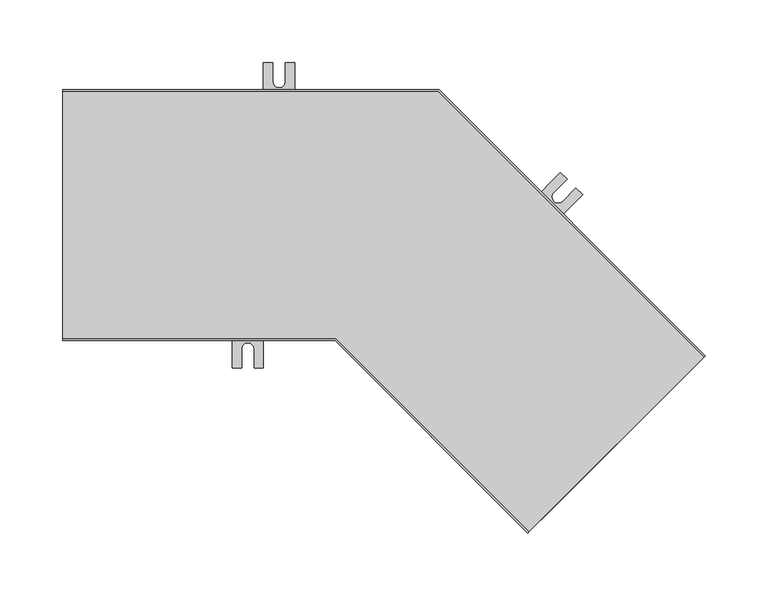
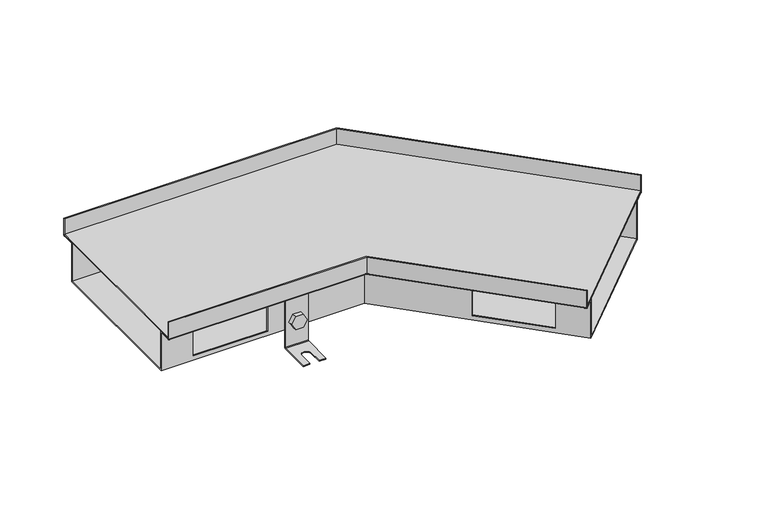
"""IFC4 building model written with IfcOpenShell, lengths in millimetres: proxy geometry, TECHNO_Угловой элемент_KVU : 200_065_135°."""

from ifc_helpers import new_model, si_unit, point, frame, frame_2d, origin, place, context, project, spatial, polyline, circle_curve, ellipse_curve, trimmed, segment, composite_curve, outline, extrude, source, transform, mapped, element, save
from ifc_brep_helpers import plane_surface, cylinder_surface, revolved_surface, advanced_brep


def mechanical_equipment_ebc65f48(model_context):
    return source(origin(), model_context, "Body", "SolidModel", [
        extrude(outline(composite_curve([segment(trimmed(circle_curve(frame_2d((0.0, -7.4999999)), 7.5), [point((0.0, -15.0))], [point((0.0, 0.0))], False, "CARTESIAN"), True, "CONTINUOUS"), segment(trimmed(circle_curve(frame_2d((0.0, -7.4999999)), 7.5), [point((0.0, 0.0))], [point((0.0, -15.0))], False, "CARTESIAN"), True, "CONTINUOUS")], self_intersect=False)), frame((370.6399674, -55.6342025, -55.5), z_axis=(0.7071067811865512, 0.7071067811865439, 0.0), x_axis=(0.0, 0.0, 1.0)), (0.0, 0.0, 1.0), 1.5),
        extrude(outline(polyline([(0.0, 0.0), (8.6602541, 0.0), (12.9903811, -7.5), (8.6602541, -15.0), (0.0, -15.0), (-4.330127, -7.5), (0.0, 0.0)])), frame((354.7581695, -48.66195, -55.5), z_axis=(0.7071067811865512, 0.7071067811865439, 0.0), x_axis=(0.35355339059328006, -0.3535533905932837, -0.866025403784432)), (0.0, 0.0, 1.0), 5.1),
        advanced_brep(
        [(373.3269732, -60.0182646, -20.5), (373.3269732, -60.0182646, -83.5), (372.7612878, -60.58395, -84.3), (349.426764, -83.9184738, -84.3), (349.426764, -83.9184738, -85.5), (372.7612878, -60.58395, -85.5), (374.1755013, -59.1697364, -83.5), (374.1755013, -59.1697364, -20.5), (355.6493037, -42.3405951, -20.5), (356.4978318, -41.4920669, -20.5), (356.4978318, -41.4920669, -83.5), (355.0836183, -42.9062805, -85.5), (331.7490945, -66.2408043, -85.5), (331.7490945, -66.2408043, -84.3), (355.0836183, -42.9062805, -84.3), (355.6493037, -42.3405951, -83.5), (337.0523953, -71.5441051, -84.3), (347.6589971, -60.9375034, -84.3), (354.7300649, -68.0085712, -84.3), (344.1234631, -78.6151729, -84.3), (344.1234631, -78.6151729, -85.5), (337.0523953, -71.5441051, -85.5), (354.7300649, -68.0085712, -85.5), (347.6589971, -60.9375034, -85.5)],
        [
            (0, 1),
            (1, 2, circle_curve(frame((372.7612878, -60.58395, -83.5), z_axis=(-0.7071067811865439, 0.7071067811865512, 0.0), x_axis=(-0.7071067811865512, -0.7071067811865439, 0.0)), 0.8)),
            (2, 3),
            (3, 4),
            (4, 5),
            (5, 6, circle_curve(frame((372.7612878, -60.58395, -83.5), z_axis=(0.7071067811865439, -0.7071067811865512, 0.0), x_axis=(-0.7071067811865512, -0.7071067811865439, 0.0)), 2.0)),
            (6, 7),
            (7, 0),
            (8, 9),
            (9, 10),
            (10, 11, circle_curve(frame((355.0836183, -42.9062805, -83.5), z_axis=(-0.7071067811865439, 0.7071067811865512, 0.0), x_axis=(-0.7071067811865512, -0.7071067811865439, 0.0)), 2.0)),
            (11, 12),
            (12, 13),
            (13, 14),
            (14, 15, circle_curve(frame((355.0836183, -42.9062805, -83.5), z_axis=(0.7071067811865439, -0.7071067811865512, 0.0), x_axis=(-0.7071067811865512, -0.7071067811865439, 0.0)), 0.8)),
            (15, 8),
            (0, 8),
            (15, 1),
            (14, 2),
            (13, 16),
            (16, 17),
            (17, 18, circle_curve(frame((351.194531, -64.4730373, -84.3), z_axis=(0.0, 0.0, -1.0), x_axis=(0.7071067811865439, -0.7071067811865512, 0.0)), 5.0)),
            (18, 19),
            (19, 3),
            (19, 20),
            (20, 4),
            (12, 21),
            (21, 16),
            (20, 22),
            (22, 23, circle_curve(frame((351.194531, -64.4730373, -85.5), z_axis=(0.0, 0.0, 1.0), x_axis=(0.7071067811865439, -0.7071067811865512, 0.0)), 5.0)),
            (23, 21),
            (11, 5),
            (10, 6),
            (9, 7),
            (23, 17),
            (18, 22),
        ],
        [
            plane_surface(frame((373.3269732, -60.0182646, -20.5), z_axis=(0.7071067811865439, -0.7071067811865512, 0.0), x_axis=(0.0, 0.0, -1.0))),
            plane_surface(frame((355.6493037, -42.3405951, -20.5), z_axis=(-0.7071067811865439, 0.7071067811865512, 0.0), x_axis=(0.0, 0.0, 1.0))),
            plane_surface(frame((373.3269732, -60.0182646, -20.5), z_axis=(-0.7071067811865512, -0.7071067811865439, 0.0), x_axis=(-0.7071067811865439, 0.7071067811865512, 0.0))),
            revolved_surface(polyline([(354.51793287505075, -43.47196592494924, -83.5), (372.19560237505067, -61.149635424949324, -83.5)]), (355.0836183, -42.9062805, -83.5), (-0.7071067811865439, 0.7071067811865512, 0.0)),
            plane_surface(frame((372.7612878, -60.58395, -84.3), z_axis=(0.0, 0.0, 1.0), x_axis=(-0.7071067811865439, 0.7071067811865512, 0.0))),
            plane_surface(frame((349.426764, -83.9184738, -84.3), z_axis=(-0.7071067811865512, -0.7071067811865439, 0.0), x_axis=(-0.7071067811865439, 0.7071067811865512, 0.0))),
            plane_surface(frame((349.426764, -83.9184738, -85.5), z_axis=(0.0, 0.0, -1.0), x_axis=(-0.7071067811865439, 0.7071067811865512, 0.0))),
            cylinder_surface(frame((355.0836183, -42.9062805, -83.5), z_axis=(0.7071067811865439, -0.7071067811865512, 0.0), x_axis=(-0.7071067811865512, -0.7071067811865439, 0.0)), 2.0),
            plane_surface(frame((374.1755013, -59.1697364, -83.5), z_axis=(0.7071067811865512, 0.7071067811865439, 0.0), x_axis=(-0.7071067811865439, 0.7071067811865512, 0.0))),
            plane_surface(frame((374.1755013, -59.1697364, -20.5), z_axis=(0.0, 0.0, 1.0), x_axis=(-0.7071067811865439, 0.7071067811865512, 0.0))),
            plane_surface(frame((347.6589971, -60.9375034, -84.3), z_axis=(0.7071067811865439, -0.7071067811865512, 0.0), x_axis=(0.0, 0.0, -1.0))),
            plane_surface(frame((344.1234631, -78.6151729, -84.3), z_axis=(-0.707106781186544, 0.7071067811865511, 0.0), x_axis=(0.0, 0.0, -1.0))),
            revolved_surface(polyline([(354.7300649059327, -68.00857120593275, -84.3), (354.7300649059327, -68.00857120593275, -85.5)]), (351.194531, -64.4730373, -85.5), (0.0, 0.0, 1.0)),
        ],
        [
            (0, [[1, 2, 3, 4, 5, 6, 7, 8]]),
            (1, [[9, 10, 11, 12, 13, 14, 15, 16]]),
            (2, [[-1, 17, -16, 18]]),
            (3, [[-2, -18, -15, 19]]),
            (4, [[-3, -19, -14, 20, 21, 22, 23, 24]]),
            (5, [[-4, -24, 25, 26]]),
            (5, [[-13, 27, 28, -20]]),
            (6, [[-5, -26, 29, 30, 31, -27, -12, 32]]),
            (7, [[-6, -32, -11, 33]]),
            (8, [[-7, -33, -10, 34]]),
            (9, [[-8, -34, -9, -17]]),
            (10, [[35, -21, -28, -31]]),
            (11, [[36, -29, -25, -23]]),
            (12, [[-35, -30, -36, -22]]),
        ],
    ),
        extrude(outline(composite_curve([segment(trimmed(circle_curve(frame_2d((0.0, -7.5)), 7.5), [point((0.0, -15.0))], [point((0.0, 0.0))], False, "CARTESIAN"), True, "CONTINUOUS"), segment(trimmed(circle_curve(frame_2d((0.0, -7.5)), 7.5), [point((0.0, 0.0))], [point((0.0, -15.0))], False, "CARTESIAN"), True, "CONTINUOUS")], self_intersect=False)), frame((374.3876334, 4.6820059, -55.5), z_axis=(0.7071067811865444, 0.7071067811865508, 0.0), x_axis=(0.0, 0.0, -1.0)), (0.0, 0.0, 1.0), 1.5),
        extrude(outline(polyline([(0.0, 0.0), (4.330127, -7.5), (0.0, -15.0), (-8.660254, -15.0), (-12.990381, -7.5), (-8.6602541, 0.0), (0.0, 0.0)])), frame((387.7238469, -4.835831, -55.5), z_axis=(0.7071067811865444, 0.7071067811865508, 0.0), x_axis=(0.3535533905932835, -0.3535533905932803, 0.866025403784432)), (0.0, 0.0, 1.0), 5.1),
        advanced_brep(
        [(372.7612878, 10.1267281, -20.5), (372.7612878, 10.1267281, -83.5), (373.3269732, 10.6924135, -84.3), (396.661497, 34.0269373, -84.3), (396.661497, 34.0269373, -85.5), (373.3269732, 10.6924135, -85.5), (371.9127596, 9.2782, -83.5), (371.9127596, 9.2782, -20.5), (390.4389573, -7.5509414, -20.5), (389.5904292, -8.3994696, -20.5), (389.5904292, -8.3994696, -83.5), (391.0046427, -6.985256, -85.5), (414.3391665, 16.3492678, -85.5), (414.3391665, 16.3492678, -84.3), (391.0046427, -6.985256, -84.3), (390.4389573, -7.5509414, -83.5), (409.0358657, 21.6525686, -84.3), (398.4292639, 11.0459669, -84.3), (391.3581961, 18.1170347, -84.3), (401.9647978, 28.7236365, -84.3), (401.9647978, 28.7236365, -85.5), (409.0358657, 21.6525686, -85.5), (391.3581961, 18.1170347, -85.5), (398.4292639, 11.0459669, -85.5)],
        [
            (0, 1),
            (1, 2, circle_curve(frame((373.3269732, 10.6924135, -83.5), z_axis=(0.7071067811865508, -0.7071067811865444, 0.0), x_axis=(0.7071067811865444, 0.7071067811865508, 0.0)), 0.8)),
            (2, 3),
            (3, 4),
            (4, 5),
            (5, 6, circle_curve(frame((373.3269732, 10.6924135, -83.5), z_axis=(-0.7071067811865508, 0.7071067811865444, 0.0), x_axis=(0.7071067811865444, 0.7071067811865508, 0.0)), 2.0)),
            (6, 7),
            (7, 0),
            (8, 9),
            (9, 10),
            (10, 11, circle_curve(frame((391.0046427, -6.985256, -83.5), z_axis=(0.7071067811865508, -0.7071067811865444, 0.0), x_axis=(0.7071067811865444, 0.7071067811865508, 0.0)), 2.0)),
            (11, 12),
            (12, 13),
            (13, 14),
            (14, 15, circle_curve(frame((391.0046427, -6.985256, -83.5), z_axis=(-0.7071067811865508, 0.7071067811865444, 0.0), x_axis=(0.7071067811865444, 0.7071067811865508, 0.0)), 0.8)),
            (15, 8),
            (0, 8),
            (15, 1),
            (14, 2),
            (13, 16),
            (16, 17),
            (17, 18, circle_curve(frame((394.89373, 14.5815008, -84.3), z_axis=(0.0, 0.0, -1.0), x_axis=(-0.7071067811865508, 0.7071067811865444, 0.0)), 5.0)),
            (18, 19),
            (19, 3),
            (19, 20),
            (20, 4),
            (12, 21),
            (21, 16),
            (20, 22),
            (22, 23, circle_curve(frame((394.89373, 14.5815008, -85.5), z_axis=(0.0, 0.0, 1.0), x_axis=(-0.7071067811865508, 0.7071067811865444, 0.0)), 5.0)),
            (23, 21),
            (11, 5),
            (10, 6),
            (9, 7),
            (23, 17),
            (18, 22),
        ],
        [
            plane_surface(frame((372.7612878, 10.1267281, -20.5), z_axis=(-0.7071067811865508, 0.7071067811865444, 0.0), x_axis=(0.0, 0.0, -1.0))),
            plane_surface(frame((390.4389573, -7.5509414, -20.5), z_axis=(0.7071067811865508, -0.7071067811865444, 0.0), x_axis=(0.0, 0.0, 1.0))),
            plane_surface(frame((372.7612878, 10.1267281, -20.5), z_axis=(0.7071067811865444, 0.7071067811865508, 0.0), x_axis=(0.7071067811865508, -0.7071067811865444, 0.0))),
            revolved_surface(polyline([(391.5703281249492, -6.419570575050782, -83.5), (373.8926586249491, 11.25809892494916, -83.5)]), (391.0046427, -6.985256, -83.5), (0.7071067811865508, -0.7071067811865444, 0.0)),
            plane_surface(frame((373.3269732, 10.6924135, -84.3), z_axis=(0.0, 0.0, 1.0000000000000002), x_axis=(0.7071067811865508, -0.7071067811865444, 0.0))),
            plane_surface(frame((396.661497, 34.0269373, -84.3), z_axis=(0.7071067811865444, 0.7071067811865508, 0.0), x_axis=(0.7071067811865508, -0.7071067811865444, 0.0))),
            plane_surface(frame((396.661497, 34.0269373, -85.5), z_axis=(0.0, 0.0, -1.0000000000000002), x_axis=(0.7071067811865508, -0.7071067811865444, 0.0))),
            cylinder_surface(frame((391.0046427, -6.985256, -83.5), z_axis=(-0.7071067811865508, 0.7071067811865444, 0.0), x_axis=(0.7071067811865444, 0.7071067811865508, 0.0)), 2.0),
            plane_surface(frame((371.9127596, 9.2782, -83.5), z_axis=(-0.7071067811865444, -0.7071067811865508, 0.0), x_axis=(0.7071067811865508, -0.7071067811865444, 0.0))),
            plane_surface(frame((371.9127596, 9.2782, -20.5), z_axis=(0.0, 0.0, 1.0000000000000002), x_axis=(0.7071067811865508, -0.7071067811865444, 0.0))),
            plane_surface(frame((398.4292639, 11.0459669, -84.3), z_axis=(-0.7071067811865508, 0.7071067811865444, 0.0), x_axis=(0.0, 0.0, -1.0))),
            plane_surface(frame((401.9647978, 28.7236365, -84.3), z_axis=(0.7071067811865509, -0.7071067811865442, 0.0), x_axis=(0.0, 0.0, -1.0))),
            revolved_surface(polyline([(391.35819609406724, 18.117034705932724, -84.3), (391.35819609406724, 18.117034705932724, -85.5)]), (394.89373, 14.5815008, -85.5), (0.0, 0.0, 1.0)),
        ],
        [
            (0, [[1, 2, 3, 4, 5, 6, 7, 8]]),
            (1, [[9, 10, 11, 12, 13, 14, 15, 16]]),
            (2, [[-1, 17, -16, 18]]),
            (3, [[-2, -18, -15, 19]]),
            (4, [[-3, -19, -14, 20, 21, 22, 23, 24]]),
            (5, [[-4, -24, 25, 26]]),
            (5, [[-13, 27, 28, -20]]),
            (6, [[-5, -26, 29, 30, 31, -27, -12, 32]]),
            (7, [[-6, -32, -11, 33]]),
            (8, [[-7, -33, -10, 34]]),
            (9, [[-8, -34, -9, -17]]),
            (10, [[35, -21, -28, -31]]),
            (11, [[36, -29, -25, -23]]),
            (12, [[-35, -30, -36, -22]]),
        ],
    ),
        extrude(outline(composite_curve([segment(trimmed(circle_curve(frame_2d((-55.5, 172.5)), 7.5), [point((-55.5, 165.0))], [point((-55.5, 180.0))], False, "CARTESIAN"), True, "CONTINUOUS"), segment(trimmed(circle_curve(frame_2d((-55.5, 172.5)), 7.5), [point((-55.5, 180.0))], [point((-55.5, 165.0))], False, "CARTESIAN"), True, "CONTINUOUS")], self_intersect=False)), frame((0.0, 85.2, 0.0), z_axis=(0.0, 1.0, 0.0), x_axis=(0.0, 0.0, 1.0)), (0.0, 0.0, 1.0), 1.5),
        extrude(outline(polyline([(-55.5, 163.839746), (-63.0, 168.169873), (-63.0, 176.830127), (-55.5, 181.160254), (-48.0, 176.830127), (-48.0, 168.169873), (-55.5, 163.839746)])), frame((0.0, 87.9, 0.0), z_axis=(0.0, 1.0, 0.0), x_axis=(0.0, 0.0, 1.0)), (0.0, 0.0, 1.0), 5.1),
        advanced_brep(
        [(185.0, 87.9, -20.5), (185.0, 86.7, -20.5), (185.0, 86.7, -83.5), (185.0, 88.7, -85.5), (185.0, 121.7, -85.5), (185.0, 121.7, -84.3), (185.0, 88.7, -84.3), (185.0, 87.9, -83.5), (160.0, 87.9, -20.5), (160.0, 87.9, -83.5), (160.0, 88.7, -84.3), (160.0, 121.7, -84.3), (160.0, 121.7, -85.5), (160.0, 88.7, -85.5), (160.0, 86.7, -83.5), (160.0, 86.7, -20.5), (177.5, 121.7, -84.3), (177.5, 106.7, -84.3), (167.5, 106.7, -84.3), (167.5, 121.7, -84.3), (167.5, 121.7, -85.5), (177.5, 121.7, -85.5), (167.5, 106.7, -85.5), (177.5, 106.7, -85.5)],
        [
            (0, 1),
            (1, 2),
            (2, 3, circle_curve(frame((185.0, 88.7, -83.5), z_axis=(1.0, 0.0, 0.0), x_axis=(0.0, 1.0, 0.0)), 2.0)),
            (3, 4),
            (4, 5),
            (5, 6),
            (6, 7, circle_curve(frame((185.0, 88.7, -83.5), z_axis=(-1.0, 0.0, 0.0), x_axis=(0.0, 1.0, 0.0)), 0.8)),
            (7, 0),
            (8, 9),
            (9, 10, circle_curve(frame((160.0, 88.7, -83.5), z_axis=(1.0, 0.0, 0.0), x_axis=(0.0, 1.0, 0.0)), 0.8)),
            (10, 11),
            (11, 12),
            (12, 13),
            (13, 14, circle_curve(frame((160.0, 88.7, -83.5), z_axis=(-1.0, 0.0, 0.0), x_axis=(0.0, 1.0, 0.0)), 2.0)),
            (14, 15),
            (15, 8),
            (7, 9),
            (8, 0),
            (6, 10),
            (5, 16),
            (16, 17),
            (17, 18, circle_curve(frame((172.5, 106.7, -84.3), z_axis=(0.0, 0.0, -1.0), x_axis=(1.0, 0.0, 0.0)), 5.0)),
            (18, 19),
            (19, 11),
            (19, 20),
            (20, 12),
            (4, 21),
            (21, 16),
            (3, 13),
            (20, 22),
            (22, 23, circle_curve(frame((172.5, 106.7, -85.5), z_axis=(0.0, 0.0, 1.0), x_axis=(1.0, 0.0, 0.0)), 5.0)),
            (23, 21),
            (2, 14),
            (1, 15),
            (18, 22),
            (23, 17),
        ],
        [
            plane_surface(frame((185.0, 87.9, -20.5), z_axis=(1.0, 0.0, 0.0), x_axis=(0.0, 0.0, -1.0))),
            plane_surface(frame((160.0, 87.9, -20.5), z_axis=(-1.0, 0.0, 0.0), x_axis=(0.0, 0.0, 1.0))),
            plane_surface(frame((185.0, 87.9, -20.5), z_axis=(0.0, 1.0, 0.0), x_axis=(-1.0, 0.0, 0.0))),
            revolved_surface(polyline([(160.0, 89.5, -83.5), (185.0, 89.5, -83.5)]), (160.0, 88.7, -83.5), (-1.0, 0.0, 0.0)),
            plane_surface(frame((185.0, 88.7, -84.3), z_axis=(0.0, 0.0, 1.0), x_axis=(-1.0, 0.0, 0.0))),
            plane_surface(frame((185.0, 121.7, -84.3), z_axis=(0.0, 1.0, 0.0), x_axis=(-1.0, 0.0, 0.0))),
            plane_surface(frame((185.0, 121.7, -85.5), z_axis=(0.0, 0.0, -1.0), x_axis=(-1.0, 0.0, 0.0))),
            cylinder_surface(frame((160.0, 88.7, -83.5), z_axis=(1.0, 0.0, 0.0), x_axis=(0.0, 1.0, 0.0)), 2.0),
            plane_surface(frame((185.0, 86.7, -83.5), z_axis=(0.0, -1.0, 0.0), x_axis=(-1.0, 0.0, 0.0))),
            plane_surface(frame((185.0, 86.7, -20.5), z_axis=(0.0, 0.0, 1.0), x_axis=(-1.0, 0.0, 0.0))),
            plane_surface(frame((167.5, 106.7, -84.3), z_axis=(1.0, 0.0, 0.0), x_axis=(0.0, 0.0, -1.0))),
            plane_surface(frame((177.5, 121.7, -84.3), z_axis=(-1.0, 0.0, 0.0), x_axis=(0.0, 0.0, -1.0))),
            revolved_surface(polyline([(177.5, 106.7, -84.3), (177.5, 106.7, -85.5)]), (172.5, 106.7, -85.5), (0.0, 0.0, 1.0)),
        ],
        [
            (0, [[1, 2, 3, 4, 5, 6, 7, 8]]),
            (1, [[9, 10, 11, 12, 13, 14, 15, 16]]),
            (2, [[17, -9, 18, -8]]),
            (3, [[19, -10, -17, -7]]),
            (4, [[20, 21, 22, 23, 24, -11, -19, -6]]),
            (5, [[-24, 25, 26, -12]]),
            (5, [[27, 28, -20, -5]]),
            (6, [[29, -13, -26, 30, 31, 32, -27, -4]]),
            (7, [[33, -14, -29, -3]]),
            (8, [[34, -15, -33, -2]]),
            (9, [[-18, -16, -34, -1]]),
            (10, [[-30, -25, -23, 35]]),
            (11, [[-21, -28, -32, 36]]),
            (12, [[-22, -36, -31, -35]]),
        ],
    ),
        extrude(outline(composite_curve([segment(trimmed(circle_curve(frame_2d((-55.5, 147.5)), 7.5), [point((-55.5, 140.0))], [point((-55.5, 155.0))], False, "CARTESIAN"), True, "CONTINUOUS"), segment(trimmed(circle_curve(frame_2d((-55.5, 147.5)), 7.5), [point((-55.5, 155.0))], [point((-55.5, 140.0))], False, "CARTESIAN"), True, "CONTINUOUS")], self_intersect=False)), frame((0.0, -86.7, 0.0), z_axis=(0.0, 1.0, 0.0), x_axis=(0.0, 0.0, 1.0)), (0.0, 0.0, 1.0), 1.5),
        extrude(outline(polyline([(-55.5, 138.839746), (-63.0, 143.169873), (-63.0, 151.830127), (-55.5, 156.160254), (-48.0, 151.830127), (-48.0, 143.169873), (-55.5, 138.839746)])), frame((0.0, -93.0, 0.0), z_axis=(0.0, 1.0, 0.0), x_axis=(0.0, 0.0, 1.0)), (0.0, 0.0, 1.0), 5.1),
        advanced_brep(
        [(160.0, -87.9, -20.5), (160.0, -87.9, -83.5), (160.0, -88.7, -84.3), (160.0, -121.7, -84.3), (160.0, -121.7, -85.5), (160.0, -88.7, -85.5), (160.0, -86.7, -83.5), (160.0, -86.7, -20.5), (135.0, -87.9, -20.5), (135.0, -86.7, -20.5), (135.0, -86.7, -83.5), (135.0, -88.7, -85.5), (135.0, -121.7, -85.5), (135.0, -121.7, -84.3), (135.0, -88.7, -84.3), (135.0, -87.9, -83.5), (142.5, -121.7, -84.3), (142.5, -106.7, -84.3), (152.5, -106.7, -84.3), (152.5, -121.7, -84.3), (152.5, -121.7, -85.5), (142.5, -121.7, -85.5), (152.5, -106.7, -85.5), (142.5, -106.7, -85.5)],
        [
            (0, 1),
            (1, 2, circle_curve(frame((160.0, -88.7, -83.5), z_axis=(-1.0, 0.0, 0.0), x_axis=(0.0, -1.0, 0.0)), 0.8)),
            (2, 3),
            (3, 4),
            (4, 5),
            (5, 6, circle_curve(frame((160.0, -88.7, -83.5), z_axis=(1.0, 0.0, 0.0), x_axis=(0.0, -1.0, 0.0)), 2.0)),
            (6, 7),
            (7, 0),
            (8, 9),
            (9, 10),
            (10, 11, circle_curve(frame((135.0, -88.7, -83.5), z_axis=(-1.0, 0.0, 0.0), x_axis=(0.0, -1.0, 0.0)), 2.0)),
            (11, 12),
            (12, 13),
            (13, 14),
            (14, 15, circle_curve(frame((135.0, -88.7, -83.5), z_axis=(1.0, 0.0, 0.0), x_axis=(0.0, -1.0, 0.0)), 0.8)),
            (15, 8),
            (0, 8),
            (15, 1),
            (14, 2),
            (13, 16),
            (16, 17),
            (17, 18, circle_curve(frame((147.5, -106.7, -84.3), z_axis=(0.0, 0.0, -1.0), x_axis=(1.0, 0.0, 0.0)), 5.0)),
            (18, 19),
            (19, 3),
            (19, 20),
            (20, 4),
            (12, 21),
            (21, 16),
            (20, 22),
            (22, 23, circle_curve(frame((147.5, -106.7, -85.5), z_axis=(0.0, 0.0, 1.0), x_axis=(1.0, 0.0, 0.0)), 5.0)),
            (23, 21),
            (11, 5),
            (10, 6),
            (9, 7),
            (23, 17),
            (18, 22),
        ],
        [
            plane_surface(frame((160.0, -87.9, -20.5), z_axis=(1.0, 0.0, 0.0), x_axis=(0.0, 0.0, -1.0))),
            plane_surface(frame((135.0, -87.9, -20.5), z_axis=(-1.0, 0.0, 0.0), x_axis=(0.0, 0.0, 1.0))),
            plane_surface(frame((160.0, -87.9, -20.5), z_axis=(0.0, -1.0, 0.0), x_axis=(-1.0, 0.0, 0.0))),
            revolved_surface(polyline([(135.0, -89.5, -83.5), (160.0, -89.5, -83.5)]), (135.0, -88.7, -83.5), (-1.0, 0.0, 0.0)),
            plane_surface(frame((160.0, -88.7, -84.3), z_axis=(0.0, 0.0, 1.0), x_axis=(-1.0, 0.0, 0.0))),
            plane_surface(frame((160.0, -121.7, -84.3), z_axis=(0.0, -1.0, 0.0), x_axis=(-1.0, 0.0, 0.0))),
            plane_surface(frame((160.0, -121.7, -85.5), z_axis=(0.0, 0.0, -1.0), x_axis=(-1.0, 0.0, 0.0))),
            cylinder_surface(frame((135.0, -88.7, -83.5), z_axis=(1.0, 0.0, 0.0), x_axis=(0.0, -1.0, 0.0)), 2.0),
            plane_surface(frame((160.0, -86.7, -83.5), z_axis=(0.0, 1.0, 0.0), x_axis=(-1.0, 0.0, 0.0))),
            plane_surface(frame((160.0, -86.7, -20.5), z_axis=(0.0, 0.0, 1.0), x_axis=(-1.0, 0.0, 0.0))),
            plane_surface(frame((142.5, -106.7, -84.3), z_axis=(1.0, 0.0, 0.0), x_axis=(0.0, 0.0, -1.0))),
            plane_surface(frame((152.5, -121.7, -84.3), z_axis=(-1.0, 0.0, 0.0), x_axis=(0.0, 0.0, -1.0))),
            revolved_surface(polyline([(152.5, -106.7, -84.3), (152.5, -106.7, -85.5)]), (147.5, -106.7, -85.5), (0.0, 0.0, 1.0)),
        ],
        [
            (0, [[1, 2, 3, 4, 5, 6, 7, 8]]),
            (1, [[9, 10, 11, 12, 13, 14, 15, 16]]),
            (2, [[-1, 17, -16, 18]]),
            (3, [[-2, -18, -15, 19]]),
            (4, [[-3, -19, -14, 20, 21, 22, 23, 24]]),
            (5, [[-4, -24, 25, 26]]),
            (5, [[-13, 27, 28, -20]]),
            (6, [[-5, -26, 29, 30, 31, -27, -12, 32]]),
            (7, [[-6, -32, -11, 33]]),
            (8, [[-7, -33, -10, 34]]),
            (9, [[-8, -34, -9, -17]]),
            (10, [[35, -21, -28, -31]]),
            (11, [[36, -29, -25, -23]]),
            (12, [[-35, -30, -36, -22]]),
        ],
    ),
        extrude(outline(polyline([(511.2835062, -112.9805625), (371.5592063, -252.7048625), (217.6543438, -98.8), (0.0, -98.8), (0.0, 98.8), (299.5029437, 98.8), (511.2835062, -112.9805625)])), frame((0.0, 0.0, -19.3), z_axis=(0.0, 0.0, 1.0), x_axis=(1.0, 0.0, 0.0)), (0.0, 0.0, 1.0), 1.2),
        advanced_brep(
        [(370.7106781, -253.5533906, -19.3), (371.5592063, -252.7048625, -20.5), (381.1758585, -243.0882102, -20.5), (381.1758585, -243.0882102, -65.0), (501.666854, -122.5972147, -65.0), (501.666854, -122.5972147, -20.5), (511.2835062, -112.9805625, -20.5), (512.1320344, -112.1320344, -19.3), (512.1320344, -112.1320344, 0.0), (511.2835062, -112.9805625, 0.0), (511.2835062, -112.9805625, -19.3), (501.666854, -122.5972147, -19.3), (500.8183259, -123.4457429, -20.5), (500.8183259, -123.4457429, -63.8), (382.0243866, -242.2396821, -63.8), (382.0243866, -242.2396821, -20.5), (381.1758585, -243.0882102, -19.3), (371.5592063, -252.7048625, -19.3), (371.5592063, -252.7048625, 0.0), (370.7106781, -253.5533906, 0.0), (0.0, -100.0, -19.3), (0.0, -100.0, 0.0), (0.0, -98.8, 0.0), (0.0, -98.8, -19.3), (0.0, -85.2, -19.3), (0.0, -84.0, -20.5), (0.0, -84.0, -63.8), (0.0, 84.0, -63.8), (0.0, 84.0, -20.5), (0.0, 85.2, -19.3), (0.0, 98.8, -19.3), (0.0, 98.8, 0.0), (0.0, 100.0, 0.0), (0.0, 100.0, -19.3), (0.0, 98.8, -20.5), (0.0, 85.2, -20.5), (0.0, 85.2, -65.0), (0.0, -85.2, -65.0), (0.0, -85.2, -20.5), (0.0, -98.8, -20.5), (217.6543438, -98.8, -20.5), (217.1572875, -100.0, -19.3), (217.6543438, -98.8, 0.0), (217.6543438, -98.8, -19.3), (223.2876482, -85.2, -65.0), (223.2876482, -85.2, -20.5), (35.0, -85.2, -28.0), (117.0, -85.2, -28.0), (117.0, -85.2, -60.0), (35.0, -85.2, -60.0), (223.7847045, -84.0, -20.5), (223.7847045, -84.0, -63.8), (117.0, -84.0, -28.0), (35.0, -84.0, -28.0), (35.0, -84.0, -60.0), (117.0, -84.0, -60.0), (223.2876482, -85.2, -19.3), (298.4443651, -160.3567168, -28.0), (356.4271211, -218.3394729, -28.0), (356.4271211, -218.3394729, -60.0), (298.4443651, -160.3567168, -60.0), (293.8696393, 85.2, -65.0), (293.372583, 84.0, -63.8), (357.2756493, -217.4909448, -28.0), (299.2928932, -159.5081887, -28.0), (299.2928932, -159.5081887, -60.0), (357.2756493, -217.4909448, -60.0), (217.1572875, -100.0, 0.0), (293.8696393, 85.2, -20.5), (476.9181167, -97.8484774, -28.0), (418.9353606, -39.8657213, -28.0), (418.9353606, -39.8657213, -60.0), (476.9181167, -97.8484774, -60.0), (299.5029437, 98.8, -20.5), (300.0, 100.0, -19.3), (300.0, 100.0, 0.0), (299.5029437, 98.8, 0.0), (299.5029437, 98.8, -19.3), (293.8696393, 85.2, -19.3), (293.372583, 84.0, -20.5), (418.0868325, -40.7142495, -28.0), (476.0695885, -98.6970055, -28.0), (476.0695885, -98.6970055, -60.0), (418.0868325, -40.7142495, -60.0), (117.0, 85.2, -28.0), (35.0, 85.2, -28.0), (35.0, 85.2, -60.0), (117.0, 85.2, -60.0), (35.0, 84.0, -28.0), (117.0, 84.0, -28.0), (117.0, 84.0, -60.0), (35.0, 84.0, -60.0)],
        [
            (0, 1, circle_curve(frame((371.5592063, -252.7048625, -19.3), z_axis=(0.7071067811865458, -0.7071067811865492, 0.0), x_axis=(-0.7071067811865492, -0.7071067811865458, 0.0)), 1.2)),
            (1, 2),
            (2, 3),
            (3, 4),
            (4, 5),
            (5, 6),
            (6, 7, circle_curve(frame((511.2835062, -112.9805625, -19.3), z_axis=(0.7071067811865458, -0.7071067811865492, 0.0), x_axis=(-0.7071067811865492, -0.7071067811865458, 0.0)), 1.2)),
            (7, 8),
            (8, 9),
            (9, 10),
            (10, 11),
            (11, 12, circle_curve(frame((501.666854, -122.5972147, -20.5), z_axis=(0.7071067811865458, -0.7071067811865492, 0.0), x_axis=(-0.7071067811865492, -0.7071067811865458, 0.0)), 1.2)),
            (12, 13),
            (13, 14),
            (14, 15),
            (15, 16, circle_curve(frame((381.1758585, -243.0882102, -20.5), z_axis=(0.7071067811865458, -0.7071067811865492, 0.0), x_axis=(-0.7071067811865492, -0.7071067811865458, 0.0)), 1.2)),
            (16, 17),
            (17, 18),
            (18, 19),
            (19, 0),
            (20, 21),
            (21, 22),
            (22, 23),
            (23, 24),
            (24, 25, circle_curve(frame((0.0, -85.2, -20.5), z_axis=(-1.0, 0.0, 0.0), x_axis=(0.0, -1.0, 0.0)), 1.2)),
            (25, 26),
            (26, 27),
            (27, 28),
            (28, 29, circle_curve(frame((0.0, 85.2, -20.5), z_axis=(-1.0, 0.0, 0.0), x_axis=(0.0, -1.0, 0.0)), 1.2)),
            (29, 30),
            (30, 31),
            (31, 32),
            (32, 33),
            (33, 34, circle_curve(frame((0.0, 98.8, -19.3), z_axis=(-1.0, 0.0, 0.0), x_axis=(0.0, -1.0, 0.0)), 1.2)),
            (34, 35),
            (35, 36),
            (36, 37),
            (37, 38),
            (38, 39),
            (39, 20, circle_curve(frame((0.0, -98.8, -19.3), z_axis=(-1.0, 0.0, 0.0), x_axis=(0.0, -1.0, 0.0)), 1.2)),
            (39, 40),
            (40, 41, ellipse_curve(frame((217.6543438, -98.8, -19.3), z_axis=(-0.9238795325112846, 0.38268343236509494, 0.0), x_axis=(0.3826834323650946, 0.9238795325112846, 0.0)), 1.2988706, 1.2)),
            (41, 20),
            (22, 42),
            (42, 43),
            (43, 23),
            (37, 44),
            (44, 45),
            (45, 38),
            (46, 47),
            (47, 48),
            (48, 49),
            (49, 46),
            (25, 50),
            (50, 51),
            (51, 26),
            (52, 53),
            (53, 54),
            (54, 55),
            (55, 52),
            (24, 56),
            (56, 50, ellipse_curve(frame((223.2876482, -85.2, -20.5), z_axis=(-0.9238795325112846, 0.38268343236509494, 0.0), x_axis=(0.3826834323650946, 0.9238795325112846, 0.0)), 1.2988706, 1.2)),
            (0, 41),
            (40, 1),
            (45, 2),
            (44, 3),
            (57, 58),
            (58, 59),
            (59, 60),
            (60, 57),
            (36, 61),
            (61, 4),
            (13, 62),
            (62, 27),
            (51, 14),
            (50, 15),
            (63, 64),
            (64, 65),
            (65, 66),
            (66, 63),
            (56, 16),
            (43, 17),
            (42, 18),
            (21, 67),
            (67, 19),
            (61, 68),
            (68, 5),
            (69, 70),
            (70, 71),
            (71, 72),
            (72, 69),
            (68, 35),
            (34, 73),
            (73, 6),
            (73, 74, ellipse_curve(frame((299.5029437, 98.8, -19.3), z_axis=(0.9238795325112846, -0.38268343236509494, 0.0), x_axis=(-0.38268343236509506, -0.9238795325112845, 0.0)), 1.2988706, 1.2)),
            (74, 7),
            (74, 75),
            (75, 8),
            (75, 32),
            (31, 76),
            (76, 9),
            (76, 77),
            (77, 10),
            (77, 30),
            (29, 78),
            (78, 11),
            (78, 79, ellipse_curve(frame((293.8696393, 85.2, -20.5), z_axis=(0.9238795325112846, -0.38268343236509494, 0.0), x_axis=(-0.38268343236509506, -0.9238795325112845, 0.0)), 1.2988706, 1.2)),
            (79, 12),
            (79, 62),
            (80, 81),
            (81, 82),
            (82, 83),
            (83, 80),
            (84, 85),
            (85, 86),
            (86, 87),
            (87, 84),
            (33, 74),
            (28, 79),
            (88, 89),
            (89, 90),
            (90, 91),
            (91, 88),
            (41, 67),
            (46, 53),
            (52, 47),
            (88, 85),
            (84, 89),
            (49, 54),
            (91, 86),
            (48, 55),
            (90, 87),
            (57, 64),
            (63, 58),
            (80, 70),
            (69, 81),
            (66, 59),
            (72, 82),
            (65, 60),
            (71, 83),
        ],
        [
            plane_surface(frame((441.4213562, -182.8427125, 0.0), z_axis=(0.7071067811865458, -0.7071067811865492, 0.0), x_axis=(0.0, 0.0, 1.0))),
            plane_surface(frame((0.0, 0.0, 0.0), z_axis=(-1.0, 0.0, 0.0), x_axis=(0.0, 0.0, 1.0))),
            cylinder_surface(frame((258.5786438, -98.8, -19.3), z_axis=(1.0, 0.0, 0.0), x_axis=(0.0, -1.0, 0.0)), 1.2),
            plane_surface(frame((217.6543438, -98.8, -19.3), z_axis=(0.0, 1.0, 0.0), x_axis=(-1.0, 0.0, 0.0))),
            plane_surface(frame((223.2876482, -85.2, -20.5), z_axis=(0.0, -1.0, 0.0), x_axis=(-1.0, 0.0, 0.0))),
            plane_surface(frame((223.7847045, -84.0, -63.8), z_axis=(0.0, 1.0, 0.0), x_axis=(-1.0, 0.0, 0.0))),
            cylinder_surface(frame((258.5786438, -85.2, -20.5), z_axis=(1.0, 0.0, 0.0), x_axis=(0.0, -1.0, 0.0)), 1.2),
            cylinder_surface(frame((371.5592063, -252.7048625, -19.3), z_axis=(0.7071067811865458, -0.7071067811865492, 0.0), x_axis=(-0.7071067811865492, -0.7071067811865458, 0.0)), 1.2),
            plane_surface(frame((371.5592063, -252.7048625, -20.5), z_axis=(0.0, 0.0, -1.0), x_axis=(-0.7071067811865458, 0.7071067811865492, 0.0))),
            plane_surface(frame((381.1758585, -243.0882102, -20.5), z_axis=(-0.7071067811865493, -0.7071067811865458, 0.0), x_axis=(-0.7071067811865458, 0.7071067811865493, 0.0))),
            plane_surface(frame((381.1758585, -243.0882102, -65.0), z_axis=(0.0, 0.0, -1.0000000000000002), x_axis=(-0.7071067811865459, 0.7071067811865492, 0.0))),
            plane_surface(frame((500.8183259, -123.4457429, -63.8), z_axis=(0.0, 0.0, 1.0), x_axis=(-0.7071067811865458, 0.7071067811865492, 0.0))),
            plane_surface(frame((382.0243866, -242.2396821, -63.8), z_axis=(0.7071067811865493, 0.7071067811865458, 0.0), x_axis=(-0.7071067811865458, 0.7071067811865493, 0.0))),
            cylinder_surface(frame((381.1758585, -243.0882102, -20.5), z_axis=(0.7071067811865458, -0.7071067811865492, 0.0), x_axis=(-0.7071067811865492, -0.7071067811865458, 0.0)), 1.2),
            plane_surface(frame((381.1758585, -243.0882102, -19.3), z_axis=(0.0, 0.0, 1.0), x_axis=(-0.7071067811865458, 0.7071067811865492, 0.0))),
            plane_surface(frame((371.5592063, -252.7048625, -19.3), z_axis=(0.7071067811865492, 0.7071067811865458, 0.0), x_axis=(-0.7071067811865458, 0.7071067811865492, 0.0))),
            plane_surface(frame((371.5592063, -252.7048625, 0.0), z_axis=(0.0, 0.0, 1.0), x_axis=(-0.7071067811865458, 0.7071067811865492, 0.0))),
            plane_surface(frame((501.666854, -122.5972147, -65.0), z_axis=(0.7071067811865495, 0.7071067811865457, 0.0), x_axis=(-0.7071067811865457, 0.7071067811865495, 0.0))),
            plane_surface(frame((501.666854, -122.5972147, -20.5), z_axis=(0.0, 0.0, -1.0), x_axis=(-0.7071067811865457, 0.7071067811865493, 0.0))),
            cylinder_surface(frame((511.2835062, -112.9805625, -19.3), z_axis=(0.7071067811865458, -0.7071067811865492, 0.0), x_axis=(-0.7071067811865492, -0.7071067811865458, 0.0)), 1.2),
            plane_surface(frame((512.1320344, -112.1320344, -19.3), z_axis=(0.7071067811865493, 0.7071067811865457, 0.0), x_axis=(-0.7071067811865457, 0.7071067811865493, 0.0))),
            plane_surface(frame((512.1320344, -112.1320344, 0.0), z_axis=(0.0, 0.0, 1.0), x_axis=(-0.7071067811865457, 0.7071067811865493, 0.0))),
            plane_surface(frame((511.2835062, -112.9805625, 0.0), z_axis=(-0.7071067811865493, -0.7071067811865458, 0.0), x_axis=(-0.7071067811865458, 0.7071067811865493, 0.0))),
            plane_surface(frame((511.2835062, -112.9805625, -19.3), z_axis=(0.0, 0.0, 1.0), x_axis=(-0.7071067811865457, 0.7071067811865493, 0.0))),
            cylinder_surface(frame((501.666854, -122.5972147, -20.5), z_axis=(0.7071067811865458, -0.7071067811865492, 0.0), x_axis=(-0.7071067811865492, -0.7071067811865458, 0.0)), 1.2),
            plane_surface(frame((500.8183259, -123.4457429, -20.5), z_axis=(-0.7071067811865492, -0.7071067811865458, 0.0), x_axis=(-0.7071067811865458, 0.7071067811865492, 0.0))),
            plane_surface(frame((293.8696393, 85.2, -65.0), z_axis=(0.0, 1.0, 0.0), x_axis=(-1.0, 0.0, 0.0))),
            cylinder_surface(frame((258.5786438, 98.8, -19.3), z_axis=(1.0, 0.0, 0.0), x_axis=(0.0, -1.0, 0.0)), 1.2),
            plane_surface(frame((300.0, 100.0, -19.3), z_axis=(0.0, 1.0, 0.0), x_axis=(-1.0, 0.0, 0.0))),
            plane_surface(frame((299.5029437, 98.8, 0.0), z_axis=(0.0, -1.0, 0.0), x_axis=(-1.0, 0.0, 0.0))),
            cylinder_surface(frame((258.5786438, 85.2, -20.5), z_axis=(1.0, 0.0, 0.0), x_axis=(0.0, -1.0, 0.0)), 1.2),
            plane_surface(frame((293.372583, 84.0, -20.5), z_axis=(0.0, -1.0, 0.0), x_axis=(-1.0, 0.0, 0.0))),
            plane_surface(frame((217.1572875, -100.0, 0.0), z_axis=(0.0, -1.0, 0.0), x_axis=(-1.0, 0.0, 0.0))),
            plane_surface(frame((370.7106781, -253.5533906, 0.0), z_axis=(-0.7071067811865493, -0.7071067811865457, 0.0), x_axis=(-0.7071067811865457, 0.7071067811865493, 0.0))),
            plane_surface(frame((35.0, 100.0, -28.0), z_axis=(0.0, 0.0, -1.0), x_axis=(0.0, -1.0, 0.0))),
            plane_surface(frame((35.0, 100.0, -60.0), z_axis=(1.0, 0.0, 0.0), x_axis=(0.0, -1.0, 0.0))),
            plane_surface(frame((117.0, 100.0, -60.0), z_axis=(0.0, 0.0, 1.0), x_axis=(0.0, -1.0, 0.0))),
            plane_surface(frame((117.0, 100.0, -28.0), z_axis=(-1.0, 0.0, 0.0), x_axis=(0.0, -1.0, 0.0))),
            plane_surface(frame((429.400541, -29.400541, -28.0), z_axis=(0.0, 0.0, -1.0), x_axis=(-0.7071067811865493, -0.7071067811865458, 0.0))),
            plane_surface(frame((487.383297, -87.383297, -28.0), z_axis=(-0.7071067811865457, 0.7071067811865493, 0.0), x_axis=(-0.7071067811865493, -0.7071067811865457, 0.0))),
            plane_surface(frame((487.383297, -87.383297, -60.0), z_axis=(0.0, 0.0, 1.0), x_axis=(-0.7071067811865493, -0.7071067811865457, 0.0))),
            plane_surface(frame((429.400541, -29.400541, -60.0), z_axis=(0.7071067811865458, -0.7071067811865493, 0.0), x_axis=(-0.7071067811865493, -0.7071067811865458, 0.0))),
        ],
        [
            (0, [[1, 2, 3, 4, 5, 6, 7, 8, 9, 10, 11, 12, 13, 14, 15, 16, 17, 18, 19, 20]]),
            (1, [[21, 22, 23, 24, 25, 26, 27, 28, 29, 30, 31, 32, 33, 34, 35, 36, 37, 38, 39, 40]]),
            (2, [[-40, 41, 42, 43]]),
            (3, [[-23, 44, 45, 46]]),
            (4, [[-38, 47, 48, 49], [50, 51, 52, 53]]),
            (5, [[-26, 54, 55, 56], [57, 58, 59, 60]]),
            (6, [[-25, 61, 62, -54]]),
            (7, [[-1, 63, -42, 64]]),
            (8, [[-2, -64, -41, -39, -49, 65]]),
            (9, [[-3, -65, -48, 66], [67, 68, 69, 70]]),
            (10, [[-4, -66, -47, -37, 71, 72]]),
            (11, [[-14, 73, 74, -27, -56, 75]]),
            (12, [[-15, -75, -55, 76], [77, 78, 79, 80]]),
            (13, [[-16, -76, -62, 81]]),
            (14, [[-17, -81, -61, -24, -46, 82]]),
            (15, [[-18, -82, -45, 83]]),
            (16, [[-19, -83, -44, -22, 84, 85]]),
            (17, [[-5, -72, 86, 87], [88, 89, 90, 91]]),
            (18, [[-6, -87, 92, -35, 93, 94]]),
            (19, [[-7, -94, 95, 96]]),
            (20, [[-8, -96, 97, 98]]),
            (21, [[-9, -98, 99, -32, 100, 101]]),
            (22, [[-10, -101, 102, 103]]),
            (23, [[-11, -103, 104, -30, 105, 106]]),
            (24, [[-12, -106, 107, 108]]),
            (25, [[-13, -108, 109, -73], [110, 111, 112, 113]]),
            (26, [[-36, -92, -86, -71], [114, 115, 116, 117]]),
            (27, [[-34, 118, -95, -93]]),
            (28, [[-33, -99, -97, -118]]),
            (29, [[-31, -104, -102, -100]]),
            (30, [[-29, 119, -107, -105]]),
            (31, [[-28, -74, -109, -119], [120, 121, 122, 123]]),
            (32, [[-21, -43, 124, -84]]),
            (33, [[-20, -85, -124, -63]]),
            (34, [[125, -57, 126, -50]]),
            (34, [[127, -114, 128, -120]]),
            (35, [[-125, -53, 129, -58]]),
            (35, [[-127, -123, 130, -115]]),
            (36, [[-129, -52, 131, -59]]),
            (36, [[-130, -122, 132, -116]]),
            (37, [[-131, -51, -126, -60]]),
            (37, [[-132, -121, -128, -117]]),
            (38, [[133, -77, 134, -67]]),
            (38, [[135, -88, 136, -110]]),
            (39, [[-134, -80, 137, -68]]),
            (39, [[-136, -91, 138, -111]]),
            (40, [[-137, -79, 139, -69]]),
            (40, [[-138, -90, 140, -112]]),
            (41, [[-133, -70, -139, -78]]),
            (41, [[-135, -113, -140, -89]]),
        ],
    ),
    ])


if __name__ == "__main__":
    model = new_model("IFC4")
    model_context = context("Model", 3, world=origin())
    ifc_project = project(units=[si_unit("LENGTHUNIT", "METRE", prefix="MILLI")], contexts=[model_context])
    site = spatial("IfcSite", under=ifc_project)
    building = spatial("IfcBuilding", under=site)
    placement = place(None, origin())
    mechanical_equipment_shape = mechanical_equipment_ebc65f48(model_context)
    element("IfcBuildingElementProxy", 1, Name="TECHNO_Угловой элемент_KVU : 200_065_135°", ObjectType="TECHNO_Угловой элемент_KVU : 200_065_135°", at=placement, inside=building, context=model_context, shape_type="MappedRepresentation", body=[
        mapped(mechanical_equipment_shape, transform((0.0, 0.0, 0.0), x_axis=(1.0, 0.0, 0.0), y_axis=(0.0, 1.0, 0.0), z_axis=(0.0, 0.0, 1.0))),
    ])
    save(model, "model.ifc")
